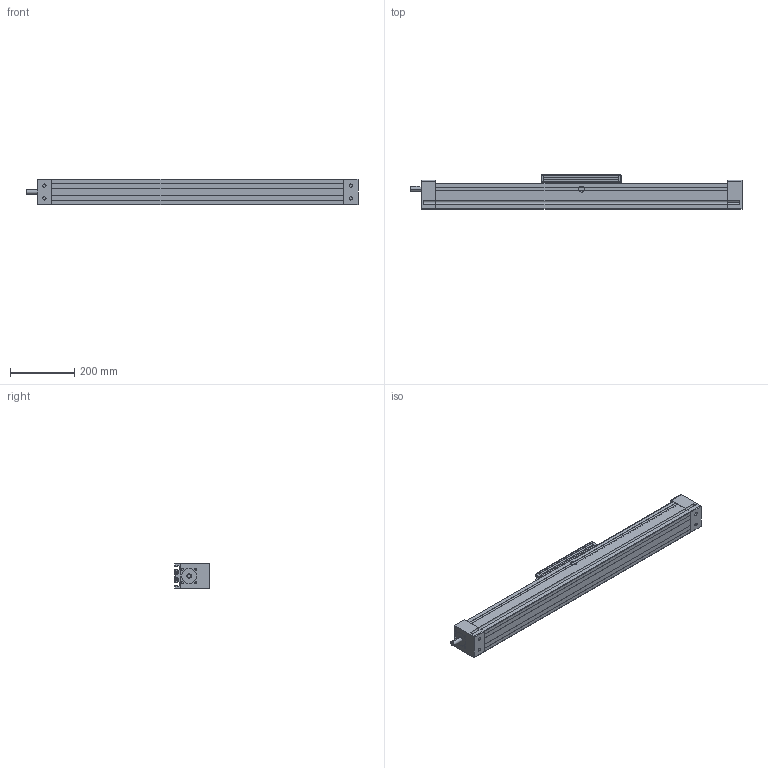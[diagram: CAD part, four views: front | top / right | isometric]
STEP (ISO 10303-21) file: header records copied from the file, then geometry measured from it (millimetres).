
FILE_DESCRIPTION (( 'STEP AP214' ), '1' );
FILE_NAME ('QSTK-80.STEP', '2016-01-14T11:22:42', ( 'admin' ), ( '' ), 'SwSTEP 2.0', 'SolidWorks 2015', '' );
FILE_SCHEMA (( 'AUTOMOTIVE_DESIGN' ));
Length unit declared in the file: millimetre
Products named in the file (5): QSTK-80; Kopie von Bahr-QST-QSK-QST-80   1  0 0  0 0  0 0  850_End Block QST (1)^QST(K)80 S0 A0_QSTK 80-1; Kopie von Bahr-QST-QSK-QST-80   1  0 0  0 0  0 0  850_End Block QST (2)^QST(K)80 S0 A0_QSTK 80-0; Kopie von Bahr-QST-QSK-QST-80   1  0 0  0 0  0 0  850_80 Extrusion^QST(K)80 S0 A0; Kopie von Bahr-QST-QSK-QST-80   1  0 0  0 0  0 0  850_80 Carriage^QST(K)80 S0 A0_0
Assembly tree (4 placements, depth 2):
  QSTK-80
    Kopie von Bahr-QST-QSK-QST-80   1  0 0  0 0  0 0  850_End Block QST (1)^QST(K)80 S0 A0_QSTK 80-1
    Kopie von Bahr-QST-QSK-QST-80   1  0 0  0 0  0 0  850_End Block QST (2)^QST(K)80 S0 A0_QSTK 80-0
    Kopie von Bahr-QST-QSK-QST-80   1  0 0  0 0  0 0  850_80 Extrusion^QST(K)80 S0 A0
    Kopie von Bahr-QST-QSK-QST-80   1  0 0  0 0  0 0  850_80 Carriage^QST(K)80 S0 A0_0
Bounding box: 1035 x 106 x 80.2 mm (x, y, z)
Volume: 6568227.8 mm3; surface area: 507595.8 mm2
Topology: 8 solids, 8 shells, 302 faces, 768 edges, 506 vertices
Faces by surface type: plane 192, cylinder 100, torus 8, cone 2
Entity records: 9594 total; most frequent: CARTESIAN_POINT 1682, DIRECTION 1590, ORIENTED_EDGE 1536, EDGE_CURVE 768, VECTOR 550, LINE 550, AXIS2_PLACEMENT_3D 520, VERTEX_POINT 506
